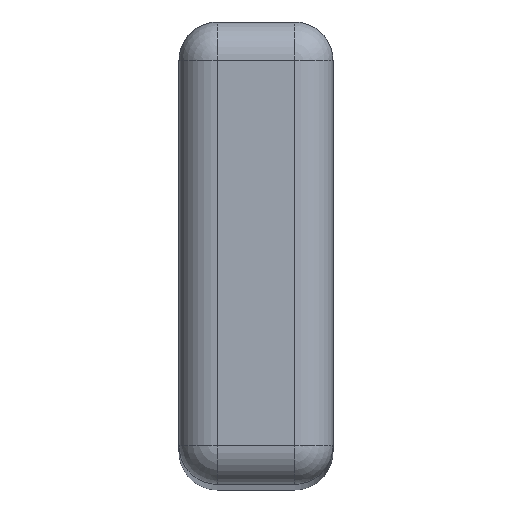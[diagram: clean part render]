
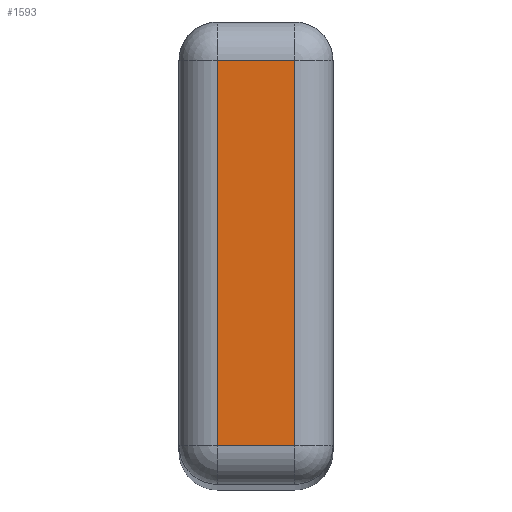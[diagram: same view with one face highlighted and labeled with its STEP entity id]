
A CAD part, top view. The second image highlights one B-rep face of the part: STEP entity #1593.
In plain terms, the highlighted planar face has unit normal (0, 0, 1).
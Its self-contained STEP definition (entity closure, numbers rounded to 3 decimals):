
#72 = CYLINDRICAL_SURFACE('',#73,2.);
#73 = AXIS2_PLACEMENT_3D('',#74,#75,#76);
#74 = CARTESIAN_POINT('',(85.4,-12.,-102.));
#75 = DIRECTION('',(-0.,1.,-0.));
#76 = DIRECTION('',(-1.,-0.,-0.));
#615 = VERTEX_POINT('',#616);
#616 = CARTESIAN_POINT('',(85.4,-10.,-100.));
#638 = EDGE_CURVE('',#615,#639,#641,.T.);
#639 = VERTEX_POINT('',#640);
#640 = CARTESIAN_POINT('',(85.4,10.,-100.));
#641 = SURFACE_CURVE('',#642,(#646,#653),.PCURVE_S1.);
#642 = LINE('',#643,#644);
#643 = CARTESIAN_POINT('',(85.4,-12.,-100.));
#644 = VECTOR('',#645,1.);
#645 = DIRECTION('',(-0.,1.,-0.));
#646 = PCURVE('',#72,#647);
#647 = DEFINITIONAL_REPRESENTATION('',(#648),#652);
#648 = LINE('',#649,#650);
#649 = CARTESIAN_POINT('',(1.571,0.));
#650 = VECTOR('',#651,1.);
#651 = DIRECTION('',(0.,1.));
#652 = ( GEOMETRIC_REPRESENTATION_CONTEXT(2) 
PARAMETRIC_REPRESENTATION_CONTEXT() REPRESENTATION_CONTEXT('2D SPACE',''
  ) );
#653 = PCURVE('',#654,#659);
#654 = PLANE('',#655);
#655 = AXIS2_PLACEMENT_3D('',#656,#657,#658);
#656 = CARTESIAN_POINT('',(83.4,-12.,-100.));
#657 = DIRECTION('',(0.,-0.,-1.));
#658 = DIRECTION('',(-1.,0.,0.));
#659 = DEFINITIONAL_REPRESENTATION('',(#660),#664);
#660 = LINE('',#661,#662);
#661 = CARTESIAN_POINT('',(-2.,0.));
#662 = VECTOR('',#663,1.);
#663 = DIRECTION('',(-0.,1.));
#664 = ( GEOMETRIC_REPRESENTATION_CONTEXT(2) 
PARAMETRIC_REPRESENTATION_CONTEXT() REPRESENTATION_CONTEXT('2D SPACE',''
  ) );
#1473 = CYLINDRICAL_SURFACE('',#1474,2.);
#1474 = AXIS2_PLACEMENT_3D('',#1475,#1476,#1477);
#1475 = CARTESIAN_POINT('',(83.4,-10.,-102.));
#1476 = DIRECTION('',(1.,-0.,-0.));
#1477 = DIRECTION('',(-0.,-1.,-0.));
#1593 = ADVANCED_FACE('',(#1594),#654,.F.);
#1594 = FACE_BOUND('',#1595,.T.);
#1595 = EDGE_LOOP('',(#1596,#1597,#1620,#1648));
#1596 = ORIENTED_EDGE('',*,*,#638,.F.);
#1597 = ORIENTED_EDGE('',*,*,#1598,.T.);
#1598 = EDGE_CURVE('',#615,#1599,#1601,.T.);
#1599 = VERTEX_POINT('',#1600);
#1600 = CARTESIAN_POINT('',(89.4,-10.,-100.));
#1601 = SURFACE_CURVE('',#1602,(#1606,#1613),.PCURVE_S1.);
#1602 = LINE('',#1603,#1604);
#1603 = CARTESIAN_POINT('',(83.4,-10.,-100.));
#1604 = VECTOR('',#1605,1.);
#1605 = DIRECTION('',(1.,-0.,-0.));
#1606 = PCURVE('',#654,#1607);
#1607 = DEFINITIONAL_REPRESENTATION('',(#1608),#1612);
#1608 = LINE('',#1609,#1610);
#1609 = CARTESIAN_POINT('',(-0.,2.));
#1610 = VECTOR('',#1611,1.);
#1611 = DIRECTION('',(-1.,0.));
#1612 = ( GEOMETRIC_REPRESENTATION_CONTEXT(2) 
PARAMETRIC_REPRESENTATION_CONTEXT() REPRESENTATION_CONTEXT('2D SPACE',''
  ) );
#1613 = PCURVE('',#1473,#1614);
#1614 = DEFINITIONAL_REPRESENTATION('',(#1615),#1619);
#1615 = LINE('',#1616,#1617);
#1616 = CARTESIAN_POINT('',(-1.571,0.));
#1617 = VECTOR('',#1618,1.);
#1618 = DIRECTION('',(-0.,1.));
#1619 = ( GEOMETRIC_REPRESENTATION_CONTEXT(2) 
PARAMETRIC_REPRESENTATION_CONTEXT() REPRESENTATION_CONTEXT('2D SPACE',''
  ) );
#1620 = ORIENTED_EDGE('',*,*,#1621,.T.);
#1621 = EDGE_CURVE('',#1599,#1622,#1624,.T.);
#1622 = VERTEX_POINT('',#1623);
#1623 = CARTESIAN_POINT('',(89.4,10.,-100.));
#1624 = SURFACE_CURVE('',#1625,(#1629,#1636),.PCURVE_S1.);
#1625 = LINE('',#1626,#1627);
#1626 = CARTESIAN_POINT('',(89.4,-12.,-100.));
#1627 = VECTOR('',#1628,1.);
#1628 = DIRECTION('',(-0.,1.,-0.));
#1629 = PCURVE('',#654,#1630);
#1630 = DEFINITIONAL_REPRESENTATION('',(#1631),#1635);
#1631 = LINE('',#1632,#1633);
#1632 = CARTESIAN_POINT('',(-6.,0.));
#1633 = VECTOR('',#1634,1.);
#1634 = DIRECTION('',(-0.,1.));
#1635 = ( GEOMETRIC_REPRESENTATION_CONTEXT(2) 
PARAMETRIC_REPRESENTATION_CONTEXT() REPRESENTATION_CONTEXT('2D SPACE',''
  ) );
#1636 = PCURVE('',#1637,#1642);
#1637 = CYLINDRICAL_SURFACE('',#1638,2.);
#1638 = AXIS2_PLACEMENT_3D('',#1639,#1640,#1641);
#1639 = CARTESIAN_POINT('',(89.4,-12.,-102.));
#1640 = DIRECTION('',(-0.,1.,-0.));
#1641 = DIRECTION('',(1.,-0.,-0.));
#1642 = DEFINITIONAL_REPRESENTATION('',(#1643),#1647);
#1643 = LINE('',#1644,#1645);
#1644 = CARTESIAN_POINT('',(-1.571,0.));
#1645 = VECTOR('',#1646,1.);
#1646 = DIRECTION('',(-0.,1.));
#1647 = ( GEOMETRIC_REPRESENTATION_CONTEXT(2) 
PARAMETRIC_REPRESENTATION_CONTEXT() REPRESENTATION_CONTEXT('2D SPACE',''
  ) );
#1648 = ORIENTED_EDGE('',*,*,#1649,.F.);
#1649 = EDGE_CURVE('',#639,#1622,#1650,.T.);
#1650 = SURFACE_CURVE('',#1651,(#1655,#1662),.PCURVE_S1.);
#1651 = LINE('',#1652,#1653);
#1652 = CARTESIAN_POINT('',(83.4,10.,-100.));
#1653 = VECTOR('',#1654,1.);
#1654 = DIRECTION('',(1.,-0.,-0.));
#1655 = PCURVE('',#654,#1656);
#1656 = DEFINITIONAL_REPRESENTATION('',(#1657),#1661);
#1657 = LINE('',#1658,#1659);
#1658 = CARTESIAN_POINT('',(-0.,22.));
#1659 = VECTOR('',#1660,1.);
#1660 = DIRECTION('',(-1.,0.));
#1661 = ( GEOMETRIC_REPRESENTATION_CONTEXT(2) 
PARAMETRIC_REPRESENTATION_CONTEXT() REPRESENTATION_CONTEXT('2D SPACE',''
  ) );
#1662 = PCURVE('',#1663,#1668);
#1663 = CYLINDRICAL_SURFACE('',#1664,2.);
#1664 = AXIS2_PLACEMENT_3D('',#1665,#1666,#1667);
#1665 = CARTESIAN_POINT('',(83.4,10.,-102.));
#1666 = DIRECTION('',(1.,-0.,-0.));
#1667 = DIRECTION('',(-0.,1.,-0.));
#1668 = DEFINITIONAL_REPRESENTATION('',(#1669),#1673);
#1669 = LINE('',#1670,#1671);
#1670 = CARTESIAN_POINT('',(1.571,0.));
#1671 = VECTOR('',#1672,1.);
#1672 = DIRECTION('',(0.,1.));
#1673 = ( GEOMETRIC_REPRESENTATION_CONTEXT(2) 
PARAMETRIC_REPRESENTATION_CONTEXT() REPRESENTATION_CONTEXT('2D SPACE',''
  ) );
